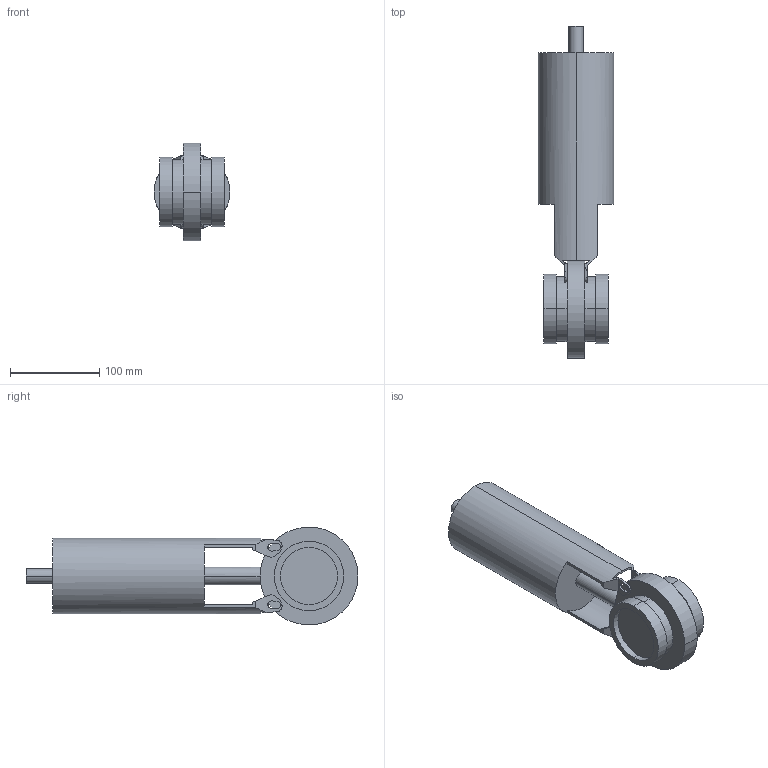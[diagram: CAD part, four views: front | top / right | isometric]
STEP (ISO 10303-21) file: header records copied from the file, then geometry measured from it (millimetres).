
FILE_DESCRIPTION(('Creo Elements/Direct Modeling STEP Export'),'2;1');
FILE_NAME('SV1-50-FZ-12G.stp','2012-03-20T14:36:04',(''),(''),'Creo Elements/Direct Modeling STEP processor for AP214 (Solid Model)','Creo Elements/Direct Modeling 17.0D 15-Jul-2011 (C) Parametric Technology GmbH','');
FILE_SCHEMA(('AUTOMOTIVE_DESIGN { 1 0 10303 214 1 1 1 1 }'));
Length unit declared in the file: millimetre
Products named in the file (1): SV1-50-FZ-12G
Bounding box: 85 x 372.88 x 109.67 mm (x, y, z)
Volume: 1389685.4 mm3; surface area: 121765.9 mm2
Topology: 1 solids, 1 shells, 109 faces, 313 edges, 202 vertices
Faces by surface type: plane 75, cylinder 34
Entity records: 3889 total; most frequent: CARTESIAN_POINT 1113, ORIENTED_EDGE 626, DIRECTION 537, EDGE_CURVE 313, VERTEX_POINT 202, VECTOR 183, LINE 183, AXIS2_PLACEMENT_3D 177
